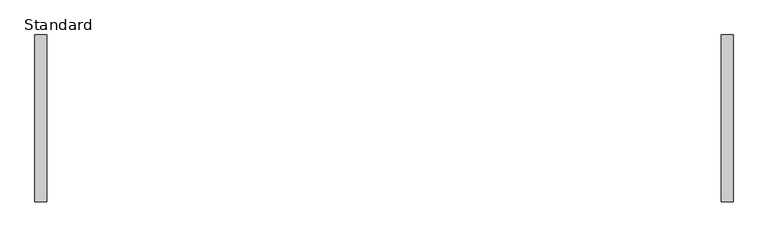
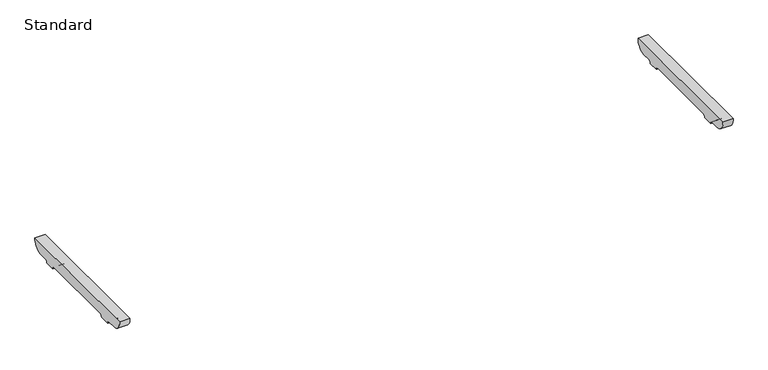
"""IFC4 building model written with IfcOpenShell, lengths in millimetres: furniture geometry, BDG_BossDesign_Tbls_AgentTables4Legs_Nested : Standard."""

from ifc_helpers import new_model, si_unit, point, frame, frame_2d, origin, place, context, project, spatial, polyline, circle_curve, trimmed, segment, composite_curve, outline, extrude, source, transform, mapped, element, save


def standard_dce489fb(model_context):
    return source(origin(), model_context, "Body", "SweptSolid", [
        extrude(outline(composite_curve([segment(polyline([(280.5450184, 672.0), (242.7000122, 672.0)]), True, "CONTINUOUS"), segment(trimmed(circle_curve(frame_2d((242.7000122, 660.0)), 12.0), [point((242.7000122, 672.0))], [point((230.7000122, 660.0))], True, "CARTESIAN"), True, "CONTINUOUS"), segment(polyline([(230.7000122, 660.0), (185.7000122, 660.0)]), True, "CONTINUOUS"), segment(trimmed(circle_curve(frame_2d((173.7000122, 660.0)), 12.0), [point((185.7000122, 660.0))], [point((173.7000122, 672.0))], True, "CARTESIAN"), True, "CONTINUOUS"), segment(polyline([(173.7000122, 672.0), (-173.7000122, 672.0)]), True, "CONTINUOUS"), segment(trimmed(circle_curve(frame_2d((-173.7000122, 660.0)), 12.0), [point((-173.7000122, 672.0))], [point((-185.7000122, 660.0))], True, "CARTESIAN"), True, "CONTINUOUS"), segment(polyline([(-185.7000122, 660.0), (-230.7000122, 660.0)]), True, "CONTINUOUS"), segment(trimmed(circle_curve(frame_2d((-242.7000122, 660.0)), 12.0), [point((-230.7000122, 660.0))], [point((-242.7000122, 672.0))], True, "CARTESIAN"), True, "CONTINUOUS"), segment(polyline([(-242.7000122, 672.0), (-280.5450184, 672.0)]), True, "CONTINUOUS"), segment(trimmed(circle_curve(frame_2d((-278.2220439, 716.5514119)), 44.6119324), [point((-280.5450184, 672.0))], [point((-322.5, 722.0))], False, "CARTESIAN"), True, "CONTINUOUS"), segment(polyline([(-322.5, 722.0), (322.5, 722.0)]), True, "CONTINUOUS"), segment(trimmed(circle_curve(frame_2d((278.2220439, 716.5514119)), 44.6119324), [point((322.5, 722.0))], [point((280.5450184, 672.0))], False, "CARTESIAN"), True, "CONTINUOUS")], self_intersect=False)), frame((1305.0, 0.0, 0.0), z_axis=(1.0, 0.0, 0.0), x_axis=(0.0, 1.0, 0.0)), (0.0, 0.0, 1.0), 45.0),
        extrude(outline(composite_curve([segment(polyline([(280.5450184, 672.0), (242.7000122, 672.0)]), True, "CONTINUOUS"), segment(trimmed(circle_curve(frame_2d((242.7000122, 660.0)), 12.0), [point((242.7000122, 672.0))], [point((230.7000122, 660.0))], True, "CARTESIAN"), True, "CONTINUOUS"), segment(polyline([(230.7000122, 660.0), (185.7000122, 660.0)]), True, "CONTINUOUS"), segment(trimmed(circle_curve(frame_2d((173.7000122, 660.0)), 12.0), [point((185.7000122, 660.0))], [point((173.7000122, 672.0))], True, "CARTESIAN"), True, "CONTINUOUS"), segment(polyline([(173.7000122, 672.0), (-173.7000122, 672.0)]), True, "CONTINUOUS"), segment(trimmed(circle_curve(frame_2d((-173.7000122, 660.0)), 12.0), [point((-173.7000122, 672.0))], [point((-185.7000122, 660.0))], True, "CARTESIAN"), True, "CONTINUOUS"), segment(polyline([(-185.7000122, 660.0), (-230.7000122, 660.0)]), True, "CONTINUOUS"), segment(trimmed(circle_curve(frame_2d((-242.7000122, 660.0)), 12.0), [point((-230.7000122, 660.0))], [point((-242.7000122, 672.0))], True, "CARTESIAN"), True, "CONTINUOUS"), segment(polyline([(-242.7000122, 672.0), (-280.5450184, 672.0)]), True, "CONTINUOUS"), segment(trimmed(circle_curve(frame_2d((-278.2220439, 716.5514119)), 44.6119324), [point((-280.5450184, 672.0))], [point((-322.5, 722.0))], False, "CARTESIAN"), True, "CONTINUOUS"), segment(polyline([(-322.5, 722.0), (322.5, 722.0)]), True, "CONTINUOUS"), segment(trimmed(circle_curve(frame_2d((278.2220439, 716.5514119)), 44.6119324), [point((322.5, 722.0))], [point((280.5450184, 672.0))], False, "CARTESIAN"), True, "CONTINUOUS")], self_intersect=False)), frame((-1350.0, 0.0, 0.0), z_axis=(1.0, 0.0, 0.0), x_axis=(0.0, 1.0, 0.0)), (0.0, 0.0, 1.0), 45.0),
    ])


if __name__ == "__main__":
    model = new_model("IFC4")
    model_context = context("Model", 3, world=origin())
    ifc_project = project(units=[si_unit("LENGTHUNIT", "METRE", prefix="MILLI")], contexts=[model_context])
    site = spatial("IfcSite", under=ifc_project)
    building = spatial("IfcBuilding", under=site)
    placement = place(None, origin())
    standard_shape = standard_dce489fb(model_context)
    element("IfcFurniture", 1, ObjectType="BDG_BossDesign_Tbls_AgentTables4Legs_Nested : Standard", at=placement, inside=building, context=model_context, shape_type="MappedRepresentation", body=[
        mapped(standard_shape, transform((0.0, 0.0, 0.0), x_axis=(1.0, 0.0, 0.0), y_axis=(0.0, 1.0, 0.0), z_axis=(0.0, 0.0, 1.0))),
    ])
    save(model, "model.ifc")
